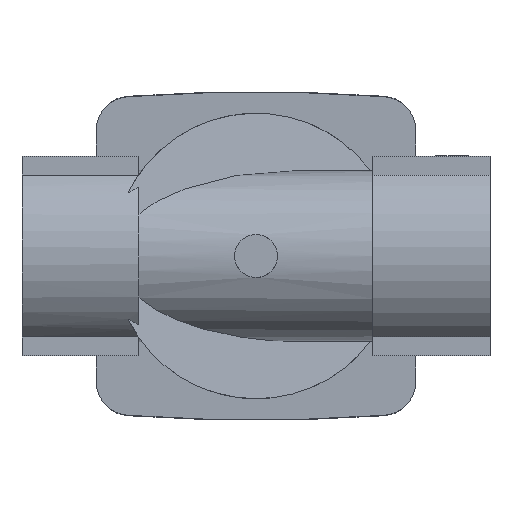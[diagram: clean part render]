
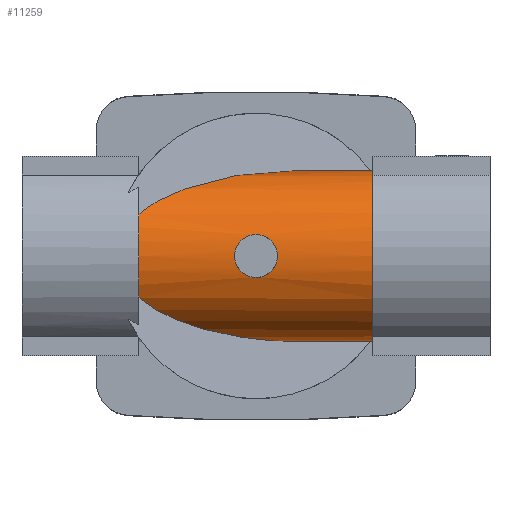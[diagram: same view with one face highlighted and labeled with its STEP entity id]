
A CAD part, front view. The second image highlights one B-rep face of the part: STEP entity #11259.
In plain terms, the highlighted cylindrical face has radius 30 mm (diameter 60 mm), a partial arc.
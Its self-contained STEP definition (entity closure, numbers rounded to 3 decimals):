
#57=ELLIPSE('',#11804,71.15,30.);
#60=ELLIPSE('',#11811,71.15,30.);
#72=B_SPLINE_CURVE_WITH_KNOTS('',3,(#15485,#15486,#15487,#15488,#15489,
#15490,#15491,#15492,#15493,#15494,#15495,#15496,#15497,#15498,#15499,#15500,
#15501,#15502,#15503),.UNSPECIFIED.,.T.,.F.,(1,1,1,1,1,1,1,1,1,1,1,1,1,
1,1,1,1,1,1,1,1,1,1),(-0.009,-0.006,-0.003,
0.,0.003,0.006,0.009,0.012,
0.015,0.018,0.021,0.024,
0.026,0.029,0.032,0.035,
0.038,0.041,0.044,0.047,
0.05,0.053,0.056),.UNSPECIFIED.);
#123=CYLINDRICAL_SURFACE('',#11834,30.);
#394=LINE('',#15480,#1404);
#395=LINE('',#15484,#1405);
#1404=VECTOR('',#13002,1000.);
#1405=VECTOR('',#13005,1000.);
#2827=ORIENTED_EDGE('',*,*,#5018,.F.);
#2828=ORIENTED_EDGE('',*,*,#5058,.T.);
#2829=ORIENTED_EDGE('',*,*,#5003,.F.);
#2830=ORIENTED_EDGE('',*,*,#5059,.F.);
#2831=ORIENTED_EDGE('',*,*,#5060,.F.);
#2832=ORIENTED_EDGE('',*,*,#5061,.T.);
#2833=ORIENTED_EDGE('',*,*,#5062,.F.);
#5003=EDGE_CURVE('',#6188,#6189,#57,.F.);
#5018=EDGE_CURVE('',#6201,#6202,#60,.F.);
#5058=EDGE_CURVE('',#6201,#6189,#6906,.T.);
#5059=EDGE_CURVE('',#6222,#6188,#394,.T.);
#5060=EDGE_CURVE('',#6223,#6222,#6907,.T.);
#5061=EDGE_CURVE('',#6223,#6202,#395,.T.);
#5062=EDGE_CURVE('',#6224,#6224,#72,.T.);
#6188=VERTEX_POINT('',#15365);
#6189=VERTEX_POINT('',#15367);
#6201=VERTEX_POINT('',#15402);
#6202=VERTEX_POINT('',#15404);
#6222=VERTEX_POINT('',#15481);
#6223=VERTEX_POINT('',#15483);
#6224=VERTEX_POINT('',#15504);
#6906=CIRCLE('',#11835,30.);
#6907=CIRCLE('',#11836,30.);
#7179=EDGE_LOOP('',(#2827,#2828,#2829,#2830,#2831,#2832));
#7180=EDGE_LOOP('',(#2833));
#7676=FACE_BOUND('',#7179,.T.);
#7677=FACE_BOUND('',#7180,.T.);
#11259=ADVANCED_FACE('',(#7676,#7677),#123,.T.);
#11804=AXIS2_PLACEMENT_3D('',#15366,#12897,#12898);
#11811=AXIS2_PLACEMENT_3D('',#15403,#12920,#12921);
#11834=AXIS2_PLACEMENT_3D('',#15478,#12998,#12999);
#11835=AXIS2_PLACEMENT_3D('',#15479,#13000,#13001);
#11836=AXIS2_PLACEMENT_3D('',#15482,#13003,#13004);
#12897=DIRECTION('',(0.422,-0.907,0.));
#12898=DIRECTION('',(-0.907,-0.422,0.));
#12920=DIRECTION('',(0.422,-0.907,0.));
#12921=DIRECTION('',(-0.907,-0.422,0.));
#12998=DIRECTION('',(-1.,0.,0.));
#12999=DIRECTION('',(0.,0.,1.));
#13000=DIRECTION('',(1.,0.,0.));
#13001=DIRECTION('',(0.,0.,-1.));
#13002=DIRECTION('',(-1.,0.,0.));
#13003=DIRECTION('',(1.,0.,0.));
#13004=DIRECTION('',(0.,0.,-1.));
#13005=DIRECTION('',(-1.,0.,0.));
#15365=CARTESIAN_POINT('',(15.161,-46.2,-30.));
#15366=CARTESIAN_POINT('',(15.161,-46.2,0.));
#15367=CARTESIAN_POINT('',(-41.,-72.315,-14.765));
#15402=CARTESIAN_POINT('',(-41.,-72.315,14.765));
#15403=CARTESIAN_POINT('',(15.161,-46.2,0.));
#15404=CARTESIAN_POINT('',(15.161,-46.2,30.));
#15478=CARTESIAN_POINT('',(41.,-46.2,0.));
#15479=CARTESIAN_POINT('',(-41.,-46.2,0.));
#15480=CARTESIAN_POINT('',(41.,-46.2,-30.));
#15481=CARTESIAN_POINT('',(41.,-46.2,-30.));
#15482=CARTESIAN_POINT('',(41.,-46.2,0.));
#15483=CARTESIAN_POINT('',(41.,-46.2,30.));
#15484=CARTESIAN_POINT('',(41.,-46.2,30.));
#15485=CARTESIAN_POINT('',(2.966,-75.354,7.101));
#15486=CARTESIAN_POINT('',(-0.002,-75.194,7.699));
#15487=CARTESIAN_POINT('',(-2.957,-75.354,7.104));
#15488=CARTESIAN_POINT('',(-5.441,-75.729,5.439));
#15489=CARTESIAN_POINT('',(-7.104,-76.097,2.957));
#15490=CARTESIAN_POINT('',(-7.697,-76.251,0.006));
#15491=CARTESIAN_POINT('',(-7.108,-76.098,-2.951));
#15492=CARTESIAN_POINT('',(-5.439,-75.728,-5.441));
#15493=CARTESIAN_POINT('',(-2.955,-75.354,-7.105));
#15494=CARTESIAN_POINT('',(-0.004,-75.194,-7.697));
#15495=CARTESIAN_POINT('',(2.95,-75.353,-7.107));
#15496=CARTESIAN_POINT('',(5.435,-75.728,-5.444));
#15497=CARTESIAN_POINT('',(7.103,-76.097,-2.961));
#15498=CARTESIAN_POINT('',(7.698,-76.251,-0.004));
#15499=CARTESIAN_POINT('',(7.107,-76.098,2.952));
#15500=CARTESIAN_POINT('',(5.442,-75.729,5.437));
#15501=CARTESIAN_POINT('',(2.966,-75.354,7.101));
#15502=CARTESIAN_POINT('',(-0.002,-75.194,7.699));
#15503=CARTESIAN_POINT('',(-2.957,-75.354,7.104));
#15504=CARTESIAN_POINT('',(0.,-75.247,7.5));
